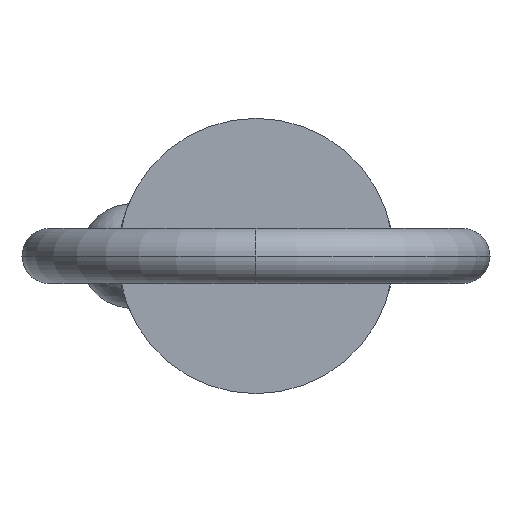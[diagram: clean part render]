
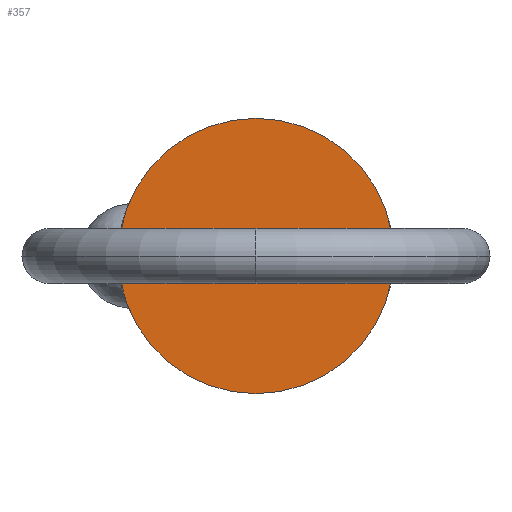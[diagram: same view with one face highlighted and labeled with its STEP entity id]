
A CAD part, left-side view. The second image highlights one B-rep face of the part: STEP entity #357.
In plain terms, the highlighted planar face has unit normal (-1, 0, 0).
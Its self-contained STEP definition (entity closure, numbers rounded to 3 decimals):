
#71 = CARTESIAN_POINT ( 'NONE',  ( 0., 0., 0. ) ) ;
#165 = AXIS2_PLACEMENT_3D ( 'NONE', #71, #746, #230 ) ;
#219 = DIRECTION ( 'NONE',  ( -1., 0., 0. ) ) ;
#229 = CIRCLE ( 'NONE', #785, 12.7 ) ;
#230 = DIRECTION ( 'NONE',  ( 0., 0., -1. ) ) ;
#245 = AXIS2_PLACEMENT_3D ( 'NONE', #437, #219, #517 ) ;
#262 = CIRCLE ( 'NONE', #165, 12.7 ) ;
#301 = VERTEX_POINT ( 'NONE', #945 ) ;
#357 = ADVANCED_FACE ( 'NONE', ( #896 ), #614, .T. ) ;
#383 = DIRECTION ( 'NONE',  ( 1., 0., 0. ) ) ;
#391 = EDGE_LOOP ( 'NONE', ( #934, #867 ) ) ;
#426 = EDGE_CURVE ( 'NONE', #454, #301, #262, .T. ) ;
#437 = CARTESIAN_POINT ( 'NONE',  ( 0., 0., 0. ) ) ;
#454 = VERTEX_POINT ( 'NONE', #790 ) ;
#517 = DIRECTION ( 'NONE',  ( 0., 0., 1. ) ) ;
#531 = EDGE_CURVE ( 'NONE', #301, #454, #229, .T. ) ;
#614 = PLANE ( 'NONE',  #245 ) ;
#693 = DIRECTION ( 'NONE',  ( 0., 0., -1. ) ) ;
#746 = DIRECTION ( 'NONE',  ( 1., 0., 0. ) ) ;
#785 = AXIS2_PLACEMENT_3D ( 'NONE', #865, #383, #693 ) ;
#790 = CARTESIAN_POINT ( 'NONE',  ( 0., 0., 12.7 ) ) ;
#865 = CARTESIAN_POINT ( 'NONE',  ( 0., 0., 0. ) ) ;
#867 = ORIENTED_EDGE ( 'NONE', *, *, #426, .F. ) ;
#896 = FACE_OUTER_BOUND ( 'NONE', #391, .T. ) ;
#934 = ORIENTED_EDGE ( 'NONE', *, *, #531, .F. ) ;
#945 = CARTESIAN_POINT ( 'NONE',  ( 0., 0., -12.7 ) ) ;
